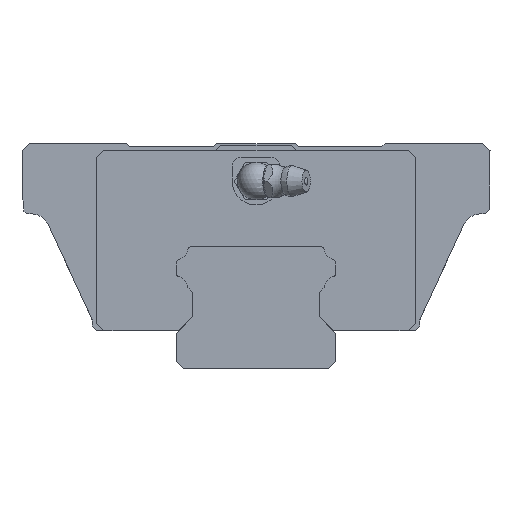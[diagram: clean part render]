
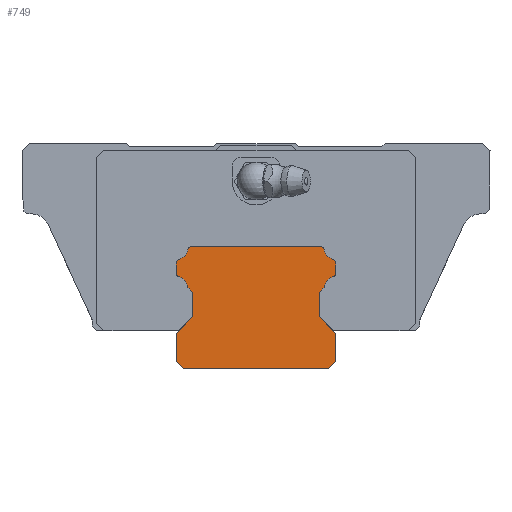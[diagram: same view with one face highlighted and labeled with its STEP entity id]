
A CAD part, front view. The second image highlights one B-rep face of the part: STEP entity #749.
In plain terms, the highlighted planar face has unit normal (0, -1, 0).
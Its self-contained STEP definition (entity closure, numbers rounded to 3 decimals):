
#577=CIRCLE('',#4347,0.8);
#579=CIRCLE('',#4350,2.6);
#581=CIRCLE('',#4363,2.6);
#583=CIRCLE('',#4366,0.8);
#585=CIRCLE('',#4370,0.8);
#587=CIRCLE('',#4373,2.6);
#589=CIRCLE('',#4376,0.8);
#591=CIRCLE('',#4379,0.8);
#593=CIRCLE('',#4382,2.6);
#595=CIRCLE('',#4385,0.8);
#749=ADVANCED_FACE('',(#1105),#954,.T.);
#954=PLANE('',#4389);
#1105=FACE_OUTER_BOUND('',#1302,.T.);
#1302=EDGE_LOOP('',(#1801,#1802,#1803,#1804,#1805,#1806,#1807,#1808,#1809,
#1810,#1811,#1812,#1813,#1814,#1815,#1816,#1817,#1818,#1819,#1820,#1821,
#1822,#1823,#1824));
#1801=ORIENTED_EDGE('',*,*,#3096,.T.);
#1802=ORIENTED_EDGE('',*,*,#3100,.T.);
#1803=ORIENTED_EDGE('',*,*,#3103,.T.);
#1804=ORIENTED_EDGE('',*,*,#3106,.T.);
#1805=ORIENTED_EDGE('',*,*,#3109,.T.);
#1806=ORIENTED_EDGE('',*,*,#3112,.T.);
#1807=ORIENTED_EDGE('',*,*,#3115,.T.);
#1808=ORIENTED_EDGE('',*,*,#3118,.T.);
#1809=ORIENTED_EDGE('',*,*,#3074,.T.);
#1810=ORIENTED_EDGE('',*,*,#3120,.T.);
#1811=ORIENTED_EDGE('',*,*,#3123,.T.);
#1812=ORIENTED_EDGE('',*,*,#3126,.T.);
#1813=ORIENTED_EDGE('',*,*,#3129,.T.);
#1814=ORIENTED_EDGE('',*,*,#3132,.T.);
#1815=ORIENTED_EDGE('',*,*,#3135,.T.);
#1816=ORIENTED_EDGE('',*,*,#3138,.T.);
#1817=ORIENTED_EDGE('',*,*,#3141,.T.);
#1818=ORIENTED_EDGE('',*,*,#3144,.T.);
#1819=ORIENTED_EDGE('',*,*,#3147,.T.);
#1820=ORIENTED_EDGE('',*,*,#3150,.T.);
#1821=ORIENTED_EDGE('',*,*,#3090,.T.);
#1822=ORIENTED_EDGE('',*,*,#3152,.T.);
#1823=ORIENTED_EDGE('',*,*,#3155,.T.);
#1824=ORIENTED_EDGE('',*,*,#3158,.T.);
#2667=VERTEX_POINT('',#6123);
#2668=VERTEX_POINT('',#6124);
#2683=VERTEX_POINT('',#6160);
#2684=VERTEX_POINT('',#6161);
#2689=VERTEX_POINT('',#6173);
#2690=VERTEX_POINT('',#6174);
#2693=VERTEX_POINT('',#6182);
#2695=VERTEX_POINT('',#6188);
#2697=VERTEX_POINT('',#6194);
#2699=VERTEX_POINT('',#6200);
#2701=VERTEX_POINT('',#6206);
#2703=VERTEX_POINT('',#6212);
#2705=VERTEX_POINT('',#6221);
#2707=VERTEX_POINT('',#6227);
#2709=VERTEX_POINT('',#6233);
#2711=VERTEX_POINT('',#6239);
#2713=VERTEX_POINT('',#6245);
#2715=VERTEX_POINT('',#6251);
#2717=VERTEX_POINT('',#6257);
#2719=VERTEX_POINT('',#6263);
#2721=VERTEX_POINT('',#6269);
#2723=VERTEX_POINT('',#6275);
#2725=VERTEX_POINT('',#6284);
#2727=VERTEX_POINT('',#6290);
#3074=EDGE_CURVE('',#2667,#2668,#3584,.T.);
#3090=EDGE_CURVE('',#2683,#2684,#3588,.T.);
#3096=EDGE_CURVE('',#2689,#2690,#3592,.T.);
#3100=EDGE_CURVE('',#2690,#2693,#577,.T.);
#3103=EDGE_CURVE('',#2693,#2695,#579,.T.);
#3106=EDGE_CURVE('',#2695,#2697,#3598,.T.);
#3109=EDGE_CURVE('',#2697,#2699,#3601,.T.);
#3112=EDGE_CURVE('',#2699,#2701,#3604,.T.);
#3115=EDGE_CURVE('',#2701,#2703,#3607,.T.);
#3118=EDGE_CURVE('',#2703,#2667,#3610,.T.);
#3120=EDGE_CURVE('',#2668,#2705,#3612,.T.);
#3123=EDGE_CURVE('',#2705,#2707,#3615,.T.);
#3126=EDGE_CURVE('',#2707,#2709,#3618,.T.);
#3129=EDGE_CURVE('',#2709,#2711,#3621,.T.);
#3132=EDGE_CURVE('',#2711,#2713,#3624,.T.);
#3135=EDGE_CURVE('',#2713,#2715,#581,.T.);
#3138=EDGE_CURVE('',#2715,#2717,#583,.T.);
#3141=EDGE_CURVE('',#2717,#2719,#3629,.T.);
#3144=EDGE_CURVE('',#2719,#2721,#585,.T.);
#3147=EDGE_CURVE('',#2721,#2723,#587,.T.);
#3150=EDGE_CURVE('',#2723,#2683,#589,.T.);
#3152=EDGE_CURVE('',#2684,#2725,#591,.T.);
#3155=EDGE_CURVE('',#2725,#2727,#593,.T.);
#3158=EDGE_CURVE('',#2727,#2689,#595,.T.);
#3584=LINE('',#6122,#3946);
#3588=LINE('',#6159,#3950);
#3592=LINE('',#6172,#3954);
#3598=LINE('',#6193,#3960);
#3601=LINE('',#6199,#3963);
#3604=LINE('',#6205,#3966);
#3607=LINE('',#6211,#3969);
#3610=LINE('',#6217,#3972);
#3612=LINE('',#6220,#3974);
#3615=LINE('',#6226,#3977);
#3618=LINE('',#6232,#3980);
#3621=LINE('',#6238,#3983);
#3624=LINE('',#6244,#3986);
#3629=LINE('',#6262,#3991);
#3946=VECTOR('',#4804,1.);
#3950=VECTOR('',#4842,1.);
#3954=VECTOR('',#4852,1.);
#3960=VECTOR('',#4872,1.);
#3963=VECTOR('',#4877,1.);
#3966=VECTOR('',#4882,1.);
#3969=VECTOR('',#4887,1.);
#3972=VECTOR('',#4892,1.);
#3974=VECTOR('',#4896,1.);
#3977=VECTOR('',#4901,1.);
#3980=VECTOR('',#4906,1.);
#3983=VECTOR('',#4911,1.);
#3986=VECTOR('',#4916,1.);
#3991=VECTOR('',#4935,1.);
#4347=AXIS2_PLACEMENT_3D('',#6181,#4858,#4859);
#4350=AXIS2_PLACEMENT_3D('',#6187,#4865,#4866);
#4363=AXIS2_PLACEMENT_3D('',#6250,#4921,#4922);
#4366=AXIS2_PLACEMENT_3D('',#6256,#4928,#4929);
#4370=AXIS2_PLACEMENT_3D('',#6268,#4940,#4941);
#4373=AXIS2_PLACEMENT_3D('',#6274,#4947,#4948);
#4376=AXIS2_PLACEMENT_3D('',#6280,#4954,#4955);
#4379=AXIS2_PLACEMENT_3D('',#6283,#4960,#4961);
#4382=AXIS2_PLACEMENT_3D('',#6289,#4967,#4968);
#4385=AXIS2_PLACEMENT_3D('',#6295,#4974,#4975);
#4389=AXIS2_PLACEMENT_3D('',#6299,#4982,#4983);
#4804=DIRECTION('',(1.,0.,0.));
#4842=DIRECTION('',(-1.,0.,0.));
#4852=DIRECTION('',(0.,0.,-1.));
#4858=DIRECTION('',(0.,-1.,0.));
#4859=DIRECTION('',(1.,0.,0.));
#4865=DIRECTION('',(0.,1.,0.));
#4866=DIRECTION('',(1.,0.,0.));
#4872=DIRECTION('',(0.707,0.,-0.707));
#4877=DIRECTION('',(0.,0.,-1.));
#4882=DIRECTION('',(-0.707,0.,-0.707));
#4887=DIRECTION('',(0.,0.,-1.));
#4892=DIRECTION('',(0.707,0.,-0.707));
#4896=DIRECTION('',(0.707,0.,0.707));
#4901=DIRECTION('',(0.,0.,1.));
#4906=DIRECTION('',(-0.707,0.,0.707));
#4911=DIRECTION('',(0.,0.,1.));
#4916=DIRECTION('',(0.707,0.,0.707));
#4921=DIRECTION('',(0.,1.,0.));
#4922=DIRECTION('',(1.,0.,0.));
#4928=DIRECTION('',(0.,-1.,0.));
#4929=DIRECTION('',(1.,0.,0.));
#4935=DIRECTION('',(0.,0.,1.));
#4940=DIRECTION('',(0.,-1.,0.));
#4941=DIRECTION('',(1.,0.,0.));
#4947=DIRECTION('',(0.,1.,0.));
#4948=DIRECTION('',(1.,0.,0.));
#4954=DIRECTION('',(0.,-1.,0.));
#4955=DIRECTION('',(1.,0.,0.));
#4960=DIRECTION('',(0.,-1.,0.));
#4961=DIRECTION('',(1.,0.,0.));
#4967=DIRECTION('',(0.,1.,0.));
#4968=DIRECTION('',(1.,0.,0.));
#4974=DIRECTION('',(0.,-1.,0.));
#4975=DIRECTION('',(1.,0.,0.));
#4982=DIRECTION('',(0.,-1.,0.));
#4983=DIRECTION('',(0.,0.,-1.));
#6122=CARTESIAN_POINT('',(-15.5,-95.,0.));
#6123=CARTESIAN_POINT('',(-15.5,-95.,0.));
#6124=CARTESIAN_POINT('',(15.5,-95.,0.));
#6159=CARTESIAN_POINT('',(13.785,-95.,26.));
#6160=CARTESIAN_POINT('',(13.785,-95.,26.));
#6161=CARTESIAN_POINT('',(-13.785,-95.,26.));
#6172=CARTESIAN_POINT('',(-17.,-95.,22.517));
#6173=CARTESIAN_POINT('',(-17.,-95.,22.517));
#6174=CARTESIAN_POINT('',(-17.,-95.,20.283));
#6181=CARTESIAN_POINT('',(-16.2,-95.,20.283));
#6182=CARTESIAN_POINT('',(-16.42,-95.,19.514));
#6187=CARTESIAN_POINT('',(-17.134,-95.,17.014));
#6188=CARTESIAN_POINT('',(-14.545,-95.,17.245));
#6193=CARTESIAN_POINT('',(-14.545,-95.,17.245));
#6194=CARTESIAN_POINT('',(-13.5,-95.,16.2));
#6199=CARTESIAN_POINT('',(-13.5,-95.,16.2));
#6200=CARTESIAN_POINT('',(-13.5,-95.,11.));
#6205=CARTESIAN_POINT('',(-13.5,-95.,11.));
#6206=CARTESIAN_POINT('',(-17.,-95.,7.5));
#6211=CARTESIAN_POINT('',(-17.,-95.,7.5));
#6212=CARTESIAN_POINT('',(-17.,-95.,1.5));
#6217=CARTESIAN_POINT('',(-17.,-95.,1.5));
#6220=CARTESIAN_POINT('',(15.5,-95.,0.));
#6221=CARTESIAN_POINT('',(17.,-95.,1.5));
#6226=CARTESIAN_POINT('',(17.,-95.,1.5));
#6227=CARTESIAN_POINT('',(17.,-95.,7.5));
#6232=CARTESIAN_POINT('',(17.,-95.,7.5));
#6233=CARTESIAN_POINT('',(13.5,-95.,11.));
#6238=CARTESIAN_POINT('',(13.5,-95.,11.));
#6239=CARTESIAN_POINT('',(13.5,-95.,16.2));
#6244=CARTESIAN_POINT('',(13.5,-95.,16.2));
#6245=CARTESIAN_POINT('',(14.545,-95.,17.245));
#6250=CARTESIAN_POINT('',(17.134,-95.,17.014));
#6251=CARTESIAN_POINT('',(16.42,-95.,19.514));
#6256=CARTESIAN_POINT('',(16.2,-95.,20.283));
#6257=CARTESIAN_POINT('',(17.,-95.,20.283));
#6262=CARTESIAN_POINT('',(17.,-95.,20.283));
#6263=CARTESIAN_POINT('',(17.,-95.,22.517));
#6268=CARTESIAN_POINT('',(16.2,-95.,22.517));
#6269=CARTESIAN_POINT('',(16.42,-95.,23.286));
#6274=CARTESIAN_POINT('',(17.134,-95.,25.786));
#6275=CARTESIAN_POINT('',(14.573,-95.,25.338));
#6280=CARTESIAN_POINT('',(13.785,-95.,25.2));
#6283=CARTESIAN_POINT('',(-13.785,-95.,25.2));
#6284=CARTESIAN_POINT('',(-14.573,-95.,25.338));
#6289=CARTESIAN_POINT('',(-17.134,-95.,25.786));
#6290=CARTESIAN_POINT('',(-16.42,-95.,23.286));
#6295=CARTESIAN_POINT('',(-16.2,-95.,22.517));
#6299=CARTESIAN_POINT('',(-16.2,-95.,20.283));
